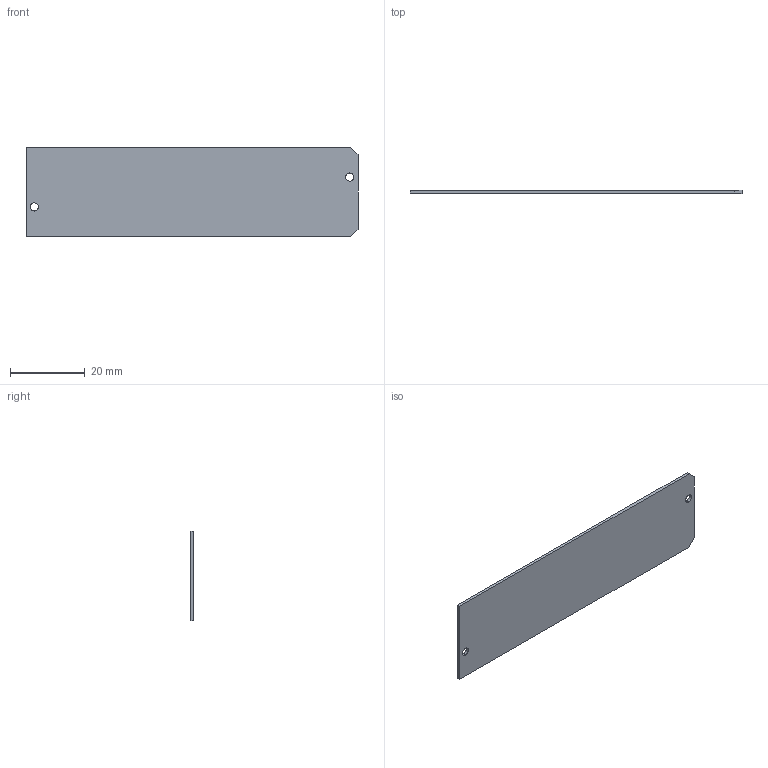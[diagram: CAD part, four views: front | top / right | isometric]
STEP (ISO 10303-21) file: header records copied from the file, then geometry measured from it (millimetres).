
FILE_DESCRIPTION (( 'STEP AP214' ), '1' );
FILE_NAME ('LBS40-00-080-3-POLARIZER-H.STEP', '2021-11-05T06:12:32', ( '' ), ( '' ), 'SwSTEP 2.0', 'SolidWorks 2021', '' );
FILE_SCHEMA (( 'AUTOMOTIVE_DESIGN' ));
Length unit declared in the file: millimetre
Products named in the file (1): LBS40-00-080-3-POLARIZER-H
Bounding box: 89 x 0.8 x 24 mm (x, y, z)
Volume: 1699.5 mm3; surface area: 4438.8 mm2
Topology: 1 solids, 1 shells, 12 faces, 30 edges, 20 vertices
Faces by surface type: plane 8, cylinder 4
Entity records: 404 total; most frequent: DIRECTION 64, CARTESIAN_POINT 63, ORIENTED_EDGE 60, EDGE_CURVE 30, VECTOR 22, LINE 22, AXIS2_PLACEMENT_3D 21, VERTEX_POINT 20
